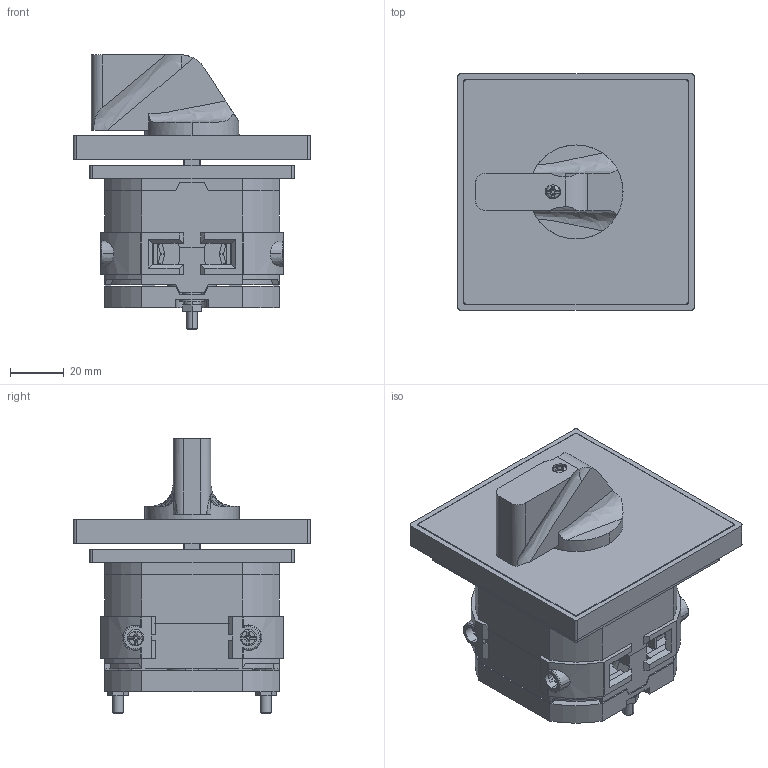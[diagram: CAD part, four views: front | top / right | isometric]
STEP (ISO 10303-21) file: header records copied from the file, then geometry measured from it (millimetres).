
FILE_DESCRIPTION (( 'STEP AP214' ), '1' );
FILE_NAME ('4G40,63,80-XXXX-U-R212,R214,S24 1ê.STEP', '2023-02-15T10:45:32', ( '' ), ( '' ), 'SwSTEP 2.0', 'SolidWorks 2018', '' );
FILE_SCHEMA (( 'AUTOMOTIVE_DESIGN' ));
Length unit declared in the file: millimetre
Products named in the file (1): 4G40,63,80-XXXX-U-R212,R214,S24 1ê
Bounding box: 88 x 88 x 102.12 mm (x, y, z)
Volume: 224119 mm3; surface area: 140570.3 mm2
Topology: 39 solids, 39 shells, 2443 faces, 6440 edges, 4142 vertices
Faces by surface type: plane 1373, cylinder 881, torus 80, cone 74, bspline 35
Entity records: 138379 total; most frequent: CARTESIAN_POINT 50715, ORIENTED_EDGE 12874, DIRECTION 12328, EDGE_CURVE 6437, AXIS2_PLACEMENT_3D 4150, VERTEX_POINT 4142, LINE 4028, VECTOR 4028
